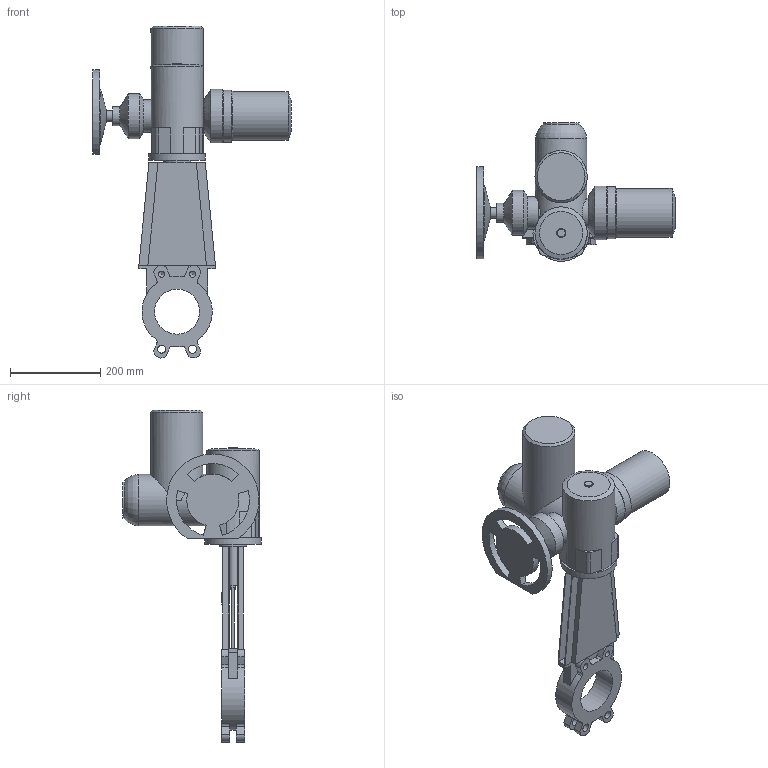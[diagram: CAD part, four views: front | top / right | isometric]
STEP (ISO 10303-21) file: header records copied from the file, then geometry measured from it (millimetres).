
FILE_DESCRIPTION(('STEP AP203'), '1');
FILE_NAME('K51GVA_DN100+MT903.A 07', '', ('UNSPECIFIED'), ('UNSPECIFIED'), 'ASCON STEP Converter 1.6', 'ASCON Math Kernel', '');
FILE_SCHEMA(('CONFIG_CONTROL_DESIGN'));
Length unit declared in the file: millimetre
Bounding box: 440 x 307.5 x 736.83 mm (x, y, z)
Volume: 9563819.9 mm3; surface area: 694244.3 mm2
Topology: 1 solids, 1 shells, 240 faces, 644 edges, 413 vertices
Faces by surface type: plane 143, cylinder 82, cone 14, torus 1
Full cylindrical faces by diameter (mm): 8.5 x4, 12 x4, 13.835 x4, 18 x4, 20 x2, 24 x1, 42 x1, 60 x1, 66 x1, 72 x1, 80 x1, 100 x2, 108 x1, 114 x1, 115 x1, 116 x2, 119 x1, 125 x1
Entity records: 10282 total; most frequent: CARTESIAN_POINT 2378, DIRECTION 1252, ORIENTED_EDGE 1182, EDGE_CURVE 591, AXIS2_PLACEMENT_3D 447, VERTEX_POINT 409, LINE 358, VECTOR 358
